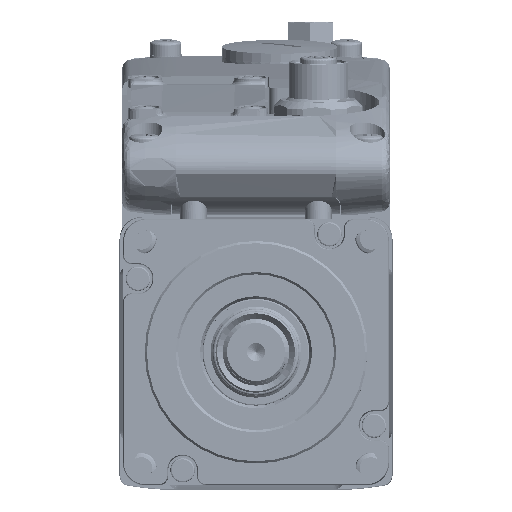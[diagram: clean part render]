
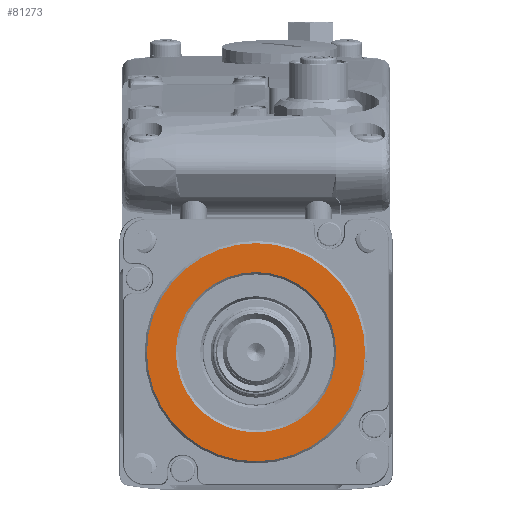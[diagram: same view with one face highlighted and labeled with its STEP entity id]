
A CAD part, top view. The second image highlights one B-rep face of the part: STEP entity #81273.
In plain terms, the highlighted planar face has unit normal (0, 0, 1) as drawn and (0, -1, 0) by its records, which use the part's own axes.
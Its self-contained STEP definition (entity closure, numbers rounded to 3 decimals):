
#3153=CIRCLE('',#85631,24.5);
#3154=CIRCLE('',#85632,18.);
#8576=ORIENTED_EDGE('',*,*,#26963,.F.);
#8577=ORIENTED_EDGE('',*,*,#26964,.T.);
#26963=EDGE_CURVE('',#36147,#36147,#3153,.T.);
#26964=EDGE_CURVE('',#36148,#36148,#3154,.T.);
#36147=VERTEX_POINT('',#111932);
#36148=VERTEX_POINT('',#111934);
#50352=EDGE_LOOP('',(#8576));
#50353=EDGE_LOOP('',(#8577));
#55387=FACE_BOUND('',#50352,.T.);
#55388=FACE_BOUND('',#50353,.T.);
#60403=PLANE('',#85630);
#81273=ADVANCED_FACE('',(#55387,#55388),#60403,.F.);
#85630=AXIS2_PLACEMENT_3D('',#111930,#92993,#92994);
#85631=AXIS2_PLACEMENT_3D('',#111931,#92995,#92996);
#85632=AXIS2_PLACEMENT_3D('',#111933,#92997,#92998);
#92993=DIRECTION('',(0.,1.,0.));
#92994=DIRECTION('',(0.,0.,1.));
#92995=DIRECTION('',(0.,1.,0.));
#92996=DIRECTION('',(0.,0.,1.));
#92997=DIRECTION('',(0.,1.,0.));
#92998=DIRECTION('',(0.,0.,1.));
#111930=CARTESIAN_POINT('',(0.,6.39,25.));
#111931=CARTESIAN_POINT('',(0.,6.39,0.));
#111932=CARTESIAN_POINT('',(0.,6.39,24.5));
#111933=CARTESIAN_POINT('',(0.,6.39,0.));
#111934=CARTESIAN_POINT('',(0.,6.39,18.));
